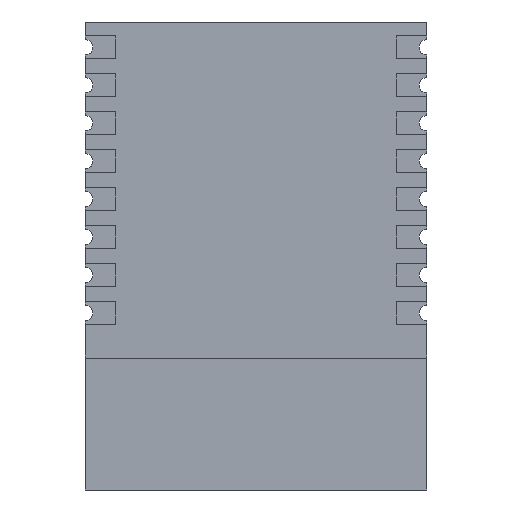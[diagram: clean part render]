
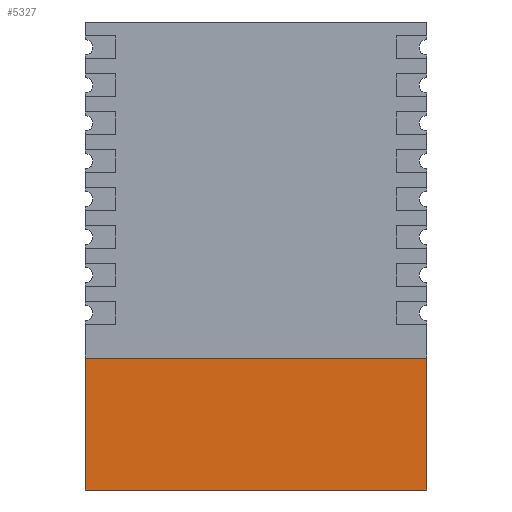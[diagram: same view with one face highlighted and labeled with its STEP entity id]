
A CAD part, front view. The second image highlights one B-rep face of the part: STEP entity #5327.
In plain terms, the highlighted planar face has unit normal (0, -1, 0).
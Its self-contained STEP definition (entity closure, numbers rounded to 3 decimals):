
#97 = AXIS2_PLACEMENT_3D ( 'NONE', #3127, #5934, #8593 ) ;
#936 = DIRECTION ( 'NONE',  ( 0., 0., -1. ) ) ;
#953 = CARTESIAN_POINT ( 'NONE',  ( 0., 0., -4.034 ) ) ;
#1175 = PLANE ( 'NONE',  #97 ) ;
#1546 = LINE ( 'NONE', #7012, #5290 ) ;
#1582 = ORIENTED_EDGE ( 'NONE', *, *, #6903, .F. ) ;
#1913 = DIRECTION ( 'NONE',  ( 0., 0., 1. ) ) ;
#1970 = VECTOR ( 'NONE', #936, 1000. ) ;
#1999 = CARTESIAN_POINT ( 'NONE',  ( -6.75, 0., -4.034 ) ) ;
#2288 = CARTESIAN_POINT ( 'NONE',  ( 6.75, 0., 9.25 ) ) ;
#2519 = FACE_OUTER_BOUND ( 'NONE', #7331, .T. ) ;
#2633 = VERTEX_POINT ( 'NONE', #5580 ) ;
#2788 = LINE ( 'NONE', #953, #6438 ) ;
#3127 = CARTESIAN_POINT ( 'NONE',  ( 0., 0., 0. ) ) ;
#3589 = ORIENTED_EDGE ( 'NONE', *, *, #6585, .F. ) ;
#3874 = VERTEX_POINT ( 'NONE', #1999 ) ;
#3944 = EDGE_CURVE ( 'NONE', #8349, #5781, #1546, .T. ) ;
#4466 = ORIENTED_EDGE ( 'NONE', *, *, #3944, .F. ) ;
#4656 = CARTESIAN_POINT ( 'NONE',  ( -6.75, 0., -9.25 ) ) ;
#5290 = VECTOR ( 'NONE', #7636, 1000. ) ;
#5327 = ADVANCED_FACE ( 'NONE', ( #2519 ), #1175, .F. ) ;
#5580 = CARTESIAN_POINT ( 'NONE',  ( 6.75, 0., -4.034 ) ) ;
#5607 = VECTOR ( 'NONE', #1913, 1000. ) ;
#5781 = VERTEX_POINT ( 'NONE', #4656 ) ;
#5934 = DIRECTION ( 'NONE',  ( 0., 1., 0. ) ) ;
#6226 = LINE ( 'NONE', #2288, #1970 ) ;
#6394 = CARTESIAN_POINT ( 'NONE',  ( 6.75, 0., -9.25 ) ) ;
#6438 = VECTOR ( 'NONE', #7436, 1000. ) ;
#6585 = EDGE_CURVE ( 'NONE', #5781, #3874, #7081, .T. ) ;
#6903 = EDGE_CURVE ( 'NONE', #2633, #8349, #6226, .T. ) ;
#7012 = CARTESIAN_POINT ( 'NONE',  ( 6.75, 0., -9.25 ) ) ;
#7081 = LINE ( 'NONE', #8595, #5607 ) ;
#7231 = ORIENTED_EDGE ( 'NONE', *, *, #7768, .T. ) ;
#7331 = EDGE_LOOP ( 'NONE', ( #1582, #7231, #3589, #4466 ) ) ;
#7436 = DIRECTION ( 'NONE',  ( -1., 0., 0. ) ) ;
#7636 = DIRECTION ( 'NONE',  ( -1., 0., 0. ) ) ;
#7768 = EDGE_CURVE ( 'NONE', #2633, #3874, #2788, .T. ) ;
#8349 = VERTEX_POINT ( 'NONE', #6394 ) ;
#8593 = DIRECTION ( 'NONE',  ( 0., 0., 1. ) ) ;
#8595 = CARTESIAN_POINT ( 'NONE',  ( -6.75, 0., 9.25 ) ) ;
